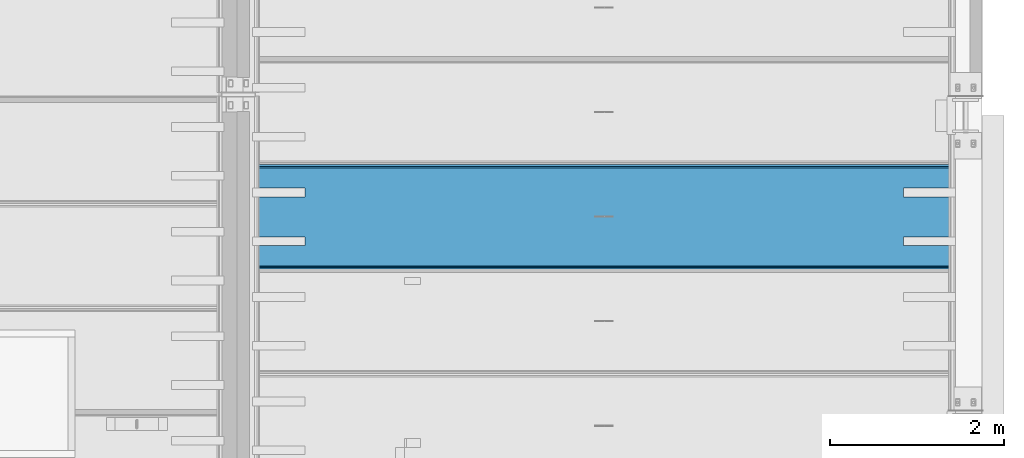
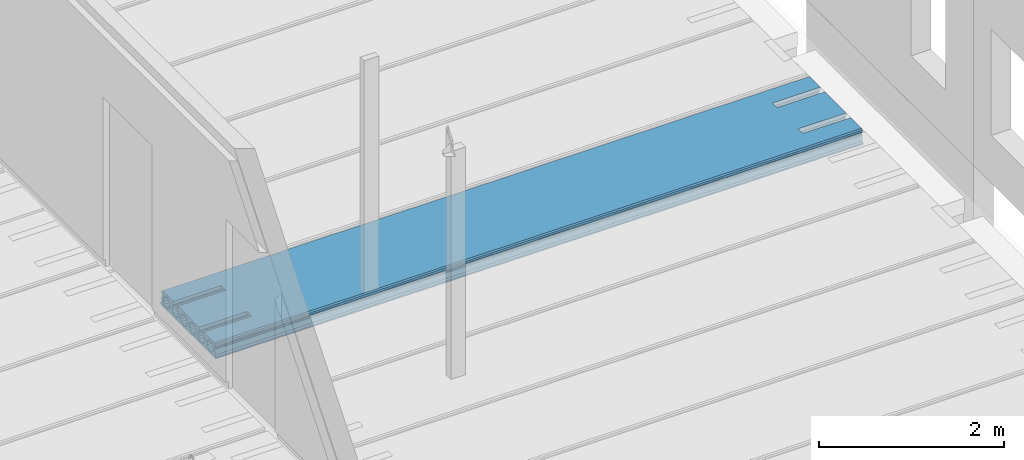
# One storey, part 115 of 230: 1 beam.
"""IFC4X3_ADD2 building model written with IfcOpenShell, lengths in millimetres."""

from ifc_helpers import new_model, si_unit, direction, origin_with_axes, place, context, subcontext, project, spatial, polygons, element, save


model = new_model("IFC4X3_ADD2")

# Units and contexts
model_context = context("Model", 3, precision=1e-05, world=origin_with_axes(), true_north=direction((0.0, 1.0)))
body_context = subcontext(model_context, "Body", "Model", "MODEL_VIEW")
ifc_project = project(units=[si_unit("LENGTHUNIT", "METRE", prefix="MILLI"), si_unit("AREAUNIT", "SQUARE_METRE"), si_unit("VOLUMEUNIT", "CUBIC_METRE"), si_unit("PLANEANGLEUNIT", "RADIAN"), si_unit("TIMEUNIT", "SECOND"), si_unit("MASSUNIT", "GRAM")], contexts=[model_context])

# Site, building, storey
site_placement = place(None, origin_with_axes())
site = spatial("IfcSite", under=ifc_project, at=site_placement, Name="Site", CompositionType="ELEMENT")
building_placement = place(site_placement, origin_with_axes())
building = spatial("IfcBuilding", under=site, at=building_placement, Name="IFC Building Story")
storey_placement = place(building_placement, origin_with_axes())
storey = spatial("IfcBuildingStorey", under=building, at=storey_placement, Name="ETAGE 00 (0)", Elevation=0.0)

# Beam
beam_placement = place(storey_placement, origin_with_axes())
element("IfcBeam", 1, at=beam_placement, inside=storey, Name="HOLLOWCORE SLAB", ObjectType="EB_SP200", context=body_context, shape_type="Tessellation", body=[
    polygons([(40131.189, 11749.0, 3999.9999909), (40131.189, 10571.0, 3999.9999909), (40131.189, 10560.0, 4012.9999909), (40131.189, 10560.0, 4029.9999909), (40131.189, 10580.0, 4044.9999909), (40131.189, 10581.45001220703, 4119.9999909), (40131.189, 10588.98262147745, 4128.676139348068), (40131.189, 10591.83993001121, 4139.805000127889), (40131.189, 10589.41863641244, 4151.036789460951), (40131.189, 10582.22998046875, 4159.9999909), (40131.189, 10582.71129616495, 4185.002769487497), (40131.189, 10598.0, 4199.9999909), (40131.189, 10830.0, 4199.9999909), (40131.189, 10830.0, 4155.806158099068), (40131.189, 10825.3205448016, 4152.679446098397), (40131.189, 10809.17097482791, 4128.509906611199), (40131.189, 10803.5, 4099.9999909), (40131.189, 10809.17097482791, 4071.490075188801), (40131.189, 10825.3205448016, 4047.320535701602), (40131.189, 10849.4900842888, 4031.170965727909), (40131.189, 10878.0, 4025.4999909), (40131.189, 10906.5099157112, 4031.170965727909), (40131.189, 10930.6794551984, 4047.320535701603), (40131.189, 10946.82902517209, 4071.490075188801), (40131.189, 10952.5, 4099.9999909), (40131.189, 10946.82902517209, 4128.509906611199), (40131.189, 10930.6794551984, 4152.679446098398), (40131.189, 10930.0, 4153.133443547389), (40131.189, 10930.0, 4199.9999909), (40131.189, 11390.0, 4199.9999909), (40131.189, 11390.0, 4153.133443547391), (40131.189, 11389.3205448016, 4152.679446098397), (40131.189, 11373.17097482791, 4128.509906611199), (40131.189, 11367.5, 4099.9999909), (40131.189, 11373.17097482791, 4071.490075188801), (40131.189, 11389.3205448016, 4047.320535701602), (40131.189, 11413.4900842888, 4031.170965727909), (40131.189, 11442.0, 4025.4999909), (40131.189, 11470.5099157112, 4031.170965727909), (40131.189, 11494.6794551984, 4047.320535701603), (40131.189, 11510.82902517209, 4071.490075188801), (40131.189, 11516.5, 4099.9999909), (40131.189, 11510.82902517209, 4128.509906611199), (40131.189, 11494.6794551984, 4152.679446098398), (40131.189, 11490.0, 4155.806158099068), (40131.189, 11490.0, 4199.9999909), (40131.189, 11722.0, 4199.9999909), (40131.189, 11737.28870383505, 4185.002769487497), (40131.189, 11737.77001953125, 4159.9999909), (40131.189, 11730.58136358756, 4151.036789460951), (40131.189, 11728.16006998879, 4139.805000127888), (40131.189, 11731.01737852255, 4128.676139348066), (40131.189, 11738.54998779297, 4119.9999909), (40131.189, 11740.0, 4044.9999909), (40131.189, 11760.0, 4029.9999909), (40131.189, 11760.0, 4012.9999909), (40131.189, 11682.6794551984, 4152.679446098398), (40131.189, 11658.5099157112, 4168.829016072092), (40131.189, 11630.0, 4174.4999909), (40131.189, 11601.4900842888, 4168.829016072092), (40131.189, 11577.3205448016, 4152.679446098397), (40131.189, 11561.17097482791, 4128.509906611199), (40131.189, 11555.5, 4099.9999909), (40131.189, 11561.17097482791, 4071.490075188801), (40131.189, 11577.3205448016, 4047.320535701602), (40131.189, 11601.4900842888, 4031.170965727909), (40131.189, 11630.0, 4025.4999909), (40131.189, 11658.5099157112, 4031.170965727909), (40131.189, 11682.6794551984, 4047.320535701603), (40131.189, 11698.82902517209, 4071.490075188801), (40131.189, 11704.5, 4099.9999909), (40131.189, 11698.82902517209, 4128.509906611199), (40131.189, 11306.6794551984, 4152.679446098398), (40131.189, 11282.5099157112, 4168.829016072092), (40131.189, 11254.0, 4174.4999909), (40131.189, 11225.4900842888, 4168.829016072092), (40131.189, 11201.3205448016, 4152.679446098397), (40131.189, 11185.17097482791, 4128.509906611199), (40131.189, 11179.5, 4099.9999909), (40131.189, 11185.17097482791, 4071.490075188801), (40131.189, 11201.3205448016, 4047.320535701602), (40131.189, 11225.4900842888, 4031.170965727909), (40131.189, 11254.0, 4025.4999909), (40131.189, 11282.5099157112, 4031.170965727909), (40131.189, 11306.6794551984, 4047.320535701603), (40131.189, 11322.82902517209, 4071.490075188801), (40131.189, 11328.5, 4099.9999909), (40131.189, 11322.82902517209, 4128.509906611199), (40131.189, 11118.6794551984, 4152.679446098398), (40131.189, 11094.5099157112, 4168.829016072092), (40131.189, 11066.0, 4174.4999909), (40131.189, 11037.4900842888, 4168.829016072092), (40131.189, 11013.3205448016, 4152.679446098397), (40131.189, 10997.17097482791, 4128.509906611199), (40131.189, 10991.5, 4099.9999909), (40131.189, 10997.17097482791, 4071.490075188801), (40131.189, 11013.3205448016, 4047.320535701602), (40131.189, 11037.4900842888, 4031.170965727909), (40131.189, 11066.0, 4025.4999909), (40131.189, 11094.5099157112, 4031.170965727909), (40131.189, 11118.6794551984, 4047.320535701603), (40131.189, 11134.82902517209, 4071.490075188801), (40131.189, 11140.5, 4099.9999909), (40131.189, 11134.82902517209, 4128.509906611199), (40131.189, 10742.6794551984, 4152.679446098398), (40131.189, 10718.5099157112, 4168.829016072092), (40131.189, 10690.0, 4174.4999909), (40131.189, 10661.4900842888, 4168.829016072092), (40131.189, 10637.3205448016, 4152.679446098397), (40131.189, 10621.17097482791, 4128.509906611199), (40131.189, 10615.5, 4099.9999909), (40131.189, 10621.17097482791, 4071.490075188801), (40131.189, 10637.3205448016, 4047.320535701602), (40131.189, 10661.4900842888, 4031.170965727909), (40131.189, 10690.0, 4025.4999909), (40131.189, 10718.5099157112, 4031.170965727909), (40131.189, 10742.6794551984, 4047.320535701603), (40131.189, 10758.82902517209, 4071.490075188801), (40131.189, 10764.5, 4099.9999909), (40131.189, 10758.82902517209, 4128.509906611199), (48196.189, 11749.0, 3999.9999909), (48196.189, 11760.0, 4012.9999909), (48196.189, 11760.0, 4029.9999909), (48196.189, 11740.0, 4044.9999909), (48196.189, 11738.54998779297, 4119.9999909), (48196.189, 11731.01737852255, 4128.676139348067), (48196.189, 11728.16006998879, 4139.805000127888), (48196.189, 11730.58136358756, 4151.036789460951), (48196.189, 11737.77001953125, 4159.9999909), (48196.189, 11737.28870383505, 4185.002769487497), (48196.189, 11722.0, 4199.9999909), (48196.189, 11490.0, 4199.9999909), (48196.189, 11490.0, 4155.806158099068), (48196.189, 11494.6794551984, 4152.679446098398), (48196.189, 11510.82902517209, 4128.509906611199), (48196.189, 11516.5, 4099.9999909), (48196.189, 11510.82902517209, 4071.490075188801), (48196.189, 11494.6794551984, 4047.320535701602), (48196.189, 11470.5099157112, 4031.170965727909), (48196.189, 11442.0, 4025.4999909), (48196.189, 11413.4900842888, 4031.170965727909), (48196.189, 11389.3205448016, 4047.320535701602), (48196.189, 11373.17097482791, 4071.490075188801), (48196.189, 11367.5, 4099.9999909), (48196.189, 11373.17097482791, 4128.509906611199), (48196.189, 11389.3205448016, 4152.679446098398), (48196.189, 11390.0, 4153.133443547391), (48196.189, 11390.0, 4199.9999909), (48196.189, 10930.0, 4199.9999909), (48196.189, 10930.0, 4153.133443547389), (48196.189, 10930.6794551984, 4152.679446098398), (48196.189, 10946.82902517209, 4128.509906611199), (48196.189, 10952.5, 4099.9999909), (48196.189, 10946.82902517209, 4071.490075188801), (48196.189, 10930.6794551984, 4047.320535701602), (48196.189, 10906.5099157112, 4031.170965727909), (48196.189, 10878.0, 4025.4999909), (48196.189, 10849.4900842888, 4031.170965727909), (48196.189, 10825.3205448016, 4047.320535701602), (48196.189, 10809.17097482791, 4071.490075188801), (48196.189, 10803.5, 4099.9999909), (48196.189, 10809.17097482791, 4128.509906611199), (48196.189, 10825.3205448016, 4152.679446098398), (48196.189, 10830.0, 4155.806158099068), (48196.189, 10830.0, 4199.9999909), (48196.189, 10598.0, 4199.9999909), (48196.189, 10582.71129616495, 4185.002769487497), (48196.189, 10582.22998046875, 4159.9999909), (48196.189, 10589.41863641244, 4151.036789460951), (48196.189, 10591.83993001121, 4139.805000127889), (48196.189, 10588.98262147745, 4128.676139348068), (48196.189, 10581.45001220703, 4119.9999909), (48196.189, 10580.0, 4044.9999909), (48196.189, 10560.0, 4029.9999909), (48196.189, 10560.0, 4012.9999909), (48196.189, 10571.0, 3999.9999909), (48196.189, 11682.6794551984, 4152.679446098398), (48196.189, 11698.82902517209, 4128.509906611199), (48196.189, 11704.5, 4099.9999909), (48196.189, 11698.82902517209, 4071.490075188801), (48196.189, 11682.6794551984, 4047.320535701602), (48196.189, 11658.5099157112, 4031.170965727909), (48196.189, 11630.0, 4025.4999909), (48196.189, 11601.4900842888, 4031.170965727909), (48196.189, 11577.3205448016, 4047.320535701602), (48196.189, 11561.17097482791, 4071.490075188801), (48196.189, 11555.5, 4099.9999909), (48196.189, 11561.17097482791, 4128.509906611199), (48196.189, 11577.3205448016, 4152.679446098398), (48196.189, 11601.4900842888, 4168.829016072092), (48196.189, 11630.0, 4174.4999909), (48196.189, 11658.5099157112, 4168.829016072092), (48196.189, 11306.6794551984, 4152.679446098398), (48196.189, 11322.82902517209, 4128.509906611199), (48196.189, 11328.5, 4099.9999909), (48196.189, 11322.82902517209, 4071.490075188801), (48196.189, 11306.6794551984, 4047.320535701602), (48196.189, 11282.5099157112, 4031.170965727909), (48196.189, 11254.0, 4025.4999909), (48196.189, 11225.4900842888, 4031.170965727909), (48196.189, 11201.3205448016, 4047.320535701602), (48196.189, 11185.17097482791, 4071.490075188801), (48196.189, 11179.5, 4099.9999909), (48196.189, 11185.17097482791, 4128.509906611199), (48196.189, 11201.3205448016, 4152.679446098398), (48196.189, 11225.4900842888, 4168.829016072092), (48196.189, 11254.0, 4174.4999909), (48196.189, 11282.5099157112, 4168.829016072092), (48196.189, 11118.6794551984, 4152.679446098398), (48196.189, 11134.82902517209, 4128.509906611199), (48196.189, 11140.5, 4099.9999909), (48196.189, 11134.82902517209, 4071.490075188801), (48196.189, 11118.6794551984, 4047.320535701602), (48196.189, 11094.5099157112, 4031.170965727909), (48196.189, 11066.0, 4025.4999909), (48196.189, 11037.4900842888, 4031.170965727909), (48196.189, 11013.3205448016, 4047.320535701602), (48196.189, 10997.17097482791, 4071.490075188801), (48196.189, 10991.5, 4099.9999909), (48196.189, 10997.17097482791, 4128.509906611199), (48196.189, 11013.3205448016, 4152.679446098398), (48196.189, 11037.4900842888, 4168.829016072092), (48196.189, 11066.0, 4174.4999909), (48196.189, 11094.5099157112, 4168.829016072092), (48196.189, 10742.6794551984, 4152.679446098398), (48196.189, 10758.82902517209, 4128.509906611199), (48196.189, 10764.5, 4099.9999909), (48196.189, 10758.82902517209, 4071.490075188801), (48196.189, 10742.6794551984, 4047.320535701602), (48196.189, 10718.5099157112, 4031.170965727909), (48196.189, 10690.0, 4025.4999909), (48196.189, 10661.4900842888, 4031.170965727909), (48196.189, 10637.3205448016, 4047.320535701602), (48196.189, 10621.17097482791, 4071.490075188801), (48196.189, 10615.5, 4099.9999909), (48196.189, 10621.17097482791, 4128.509906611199), (48196.189, 10637.3205448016, 4152.679446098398), (48196.189, 10661.4900842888, 4168.829016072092), (48196.189, 10690.0, 4174.4999909), (48196.189, 10718.5099157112, 4168.829016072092), (40731.189, 11490.0, 4199.9999909), (40731.189, 11390.0, 4199.9999909), (40731.189, 10930.0, 4199.9999909), (40731.189, 10830.0, 4199.9999909), (47596.18900000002, 10830.0, 4199.9999909), (47596.18900000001, 10930.0, 4199.9999909), (47596.18900000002, 11390.0, 4199.9999909), (47596.18900000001, 11490.0, 4199.9999909), (47596.18900000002, 11490.0, 4155.806158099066), (47596.18900000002, 11470.5099157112, 4168.829016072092), (40731.189, 11470.5099157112, 4168.829016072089), (40731.189, 11490.0, 4155.806158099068), (47596.18900000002, 11442.0, 4174.4999909), (40731.189, 11442.0, 4174.4999909), (47596.18900000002, 11413.4900842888, 4168.829016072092), (40731.189, 11413.4900842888, 4168.82901607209), (40731.189, 11390.0, 4153.133443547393), (47596.18900000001, 11390.0, 4153.133443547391), (47596.18900000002, 10930.0, 4153.133443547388), (47596.18900000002, 10906.5099157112, 4168.829016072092), (40731.189, 10906.5099157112, 4168.829016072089), (40731.189, 10930.0, 4153.133443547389), (47596.18900000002, 10878.0, 4174.4999909), (40731.189, 10878.0, 4174.499990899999), (47596.18900000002, 10849.4900842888, 4168.829016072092), (40731.189, 10849.4900842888, 4168.829016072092), (40731.189, 10830.0, 4155.806158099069), (47596.18900000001, 10830.0, 4155.806158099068), (40731.189, 11390.0, 4199.999996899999), (40731.189, 11490.0, 4199.999996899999), (47596.18900000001, 11490.0, 4199.999996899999), (47596.18900000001, 11390.0, 4199.999996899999), (47596.18900000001, 10930.0, 4199.999996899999), (47596.18900000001, 10830.0, 4199.999996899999), (40731.189, 10830.0, 4199.999996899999), (40731.189, 10930.0, 4199.999996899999)], [[[27, 28, 29]], [[92, 93, 26]], [[92, 26, 27]], [[92, 27, 29]], [[29, 91, 92]], [[91, 29, 30]], [[30, 90, 91]], [[30, 89, 90]], [[94, 95, 25]], [[94, 25, 26]], [[26, 93, 94]], [[96, 97, 24]], [[24, 25, 95]], [[24, 95, 96]], [[97, 23, 24]], [[76, 77, 104]], [[76, 104, 89]], [[89, 75, 76]], [[75, 89, 30]], [[30, 74, 75]], [[30, 73, 74]], [[78, 79, 103]], [[78, 103, 104]], [[104, 77, 78]], [[80, 81, 102]], [[102, 103, 79]], [[102, 79, 80]], [[81, 101, 102]], [[88, 73, 30]], [[88, 30, 31]], [[33, 34, 87]], [[33, 87, 88]], [[88, 32, 33]], [[88, 31, 32]], [[35, 36, 86]], [[86, 87, 34]], [[86, 34, 35]], [[36, 85, 86]], [[44, 45, 46]], [[60, 61, 43]], [[60, 43, 44]], [[60, 44, 46]], [[46, 59, 60]], [[46, 47, 59]], [[47, 58, 59]], [[47, 57, 58]], [[62, 63, 42]], [[62, 42, 43]], [[43, 61, 62]], [[64, 65, 41]], [[41, 42, 63]], [[41, 63, 64]], [[50, 51, 72]], [[50, 72, 57]], [[57, 47, 48]], [[57, 48, 49]], [[57, 49, 50]], [[52, 53, 71]], [[52, 71, 72]], [[72, 51, 52]], [[53, 54, 70]], [[53, 70, 71]], [[54, 55, 56]], [[54, 56, 1]], [[1, 69, 70]], [[1, 70, 54]], [[1, 68, 69]], [[1, 67, 68]], [[1, 66, 67]], [[1, 40, 66]], [[40, 41, 65]], [[40, 65, 66]], [[1, 39, 40]], [[1, 38, 39]], [[1, 84, 38]], [[84, 37, 38]], [[84, 85, 36]], [[84, 36, 37]], [[1, 83, 84]], [[1, 100, 83]], [[100, 82, 83]], [[100, 101, 81]], [[100, 81, 82]], [[1, 99, 100]], [[1, 22, 99]], [[22, 98, 99]], [[22, 23, 97]], [[22, 97, 98]], [[1, 21, 22]], [[1, 2, 21]], [[2, 20, 21]], [[2, 19, 20]], [[9, 10, 11]], [[9, 11, 12]], [[109, 110, 8]], [[109, 8, 9]], [[9, 12, 108]], [[9, 108, 109]], [[12, 107, 108]], [[107, 12, 13]], [[13, 106, 107]], [[13, 105, 106]], [[110, 7, 8]], [[112, 113, 5]], [[5, 6, 111]], [[5, 111, 112]], [[6, 7, 110]], [[6, 110, 111]], [[116, 117, 18]], [[116, 18, 19]], [[19, 115, 116]], [[19, 2, 115]], [[2, 114, 115]], [[2, 5, 113]], [[2, 113, 114]], [[2, 3, 4]], [[2, 4, 5]], [[118, 119, 17]], [[118, 17, 18]], [[18, 117, 118]], [[120, 105, 16]], [[16, 17, 119]], [[16, 119, 120]], [[105, 13, 15]], [[105, 15, 16]], [[13, 14, 15]], [[173, 174, 175]], [[173, 175, 176]], [[128, 129, 130]], [[128, 130, 131]], [[128, 131, 177]], [[177, 178, 127]], [[177, 127, 128]], [[178, 126, 127]], [[180, 181, 124]], [[124, 125, 179]], [[124, 179, 180]], [[125, 126, 178]], [[125, 178, 179]], [[192, 177, 131]], [[131, 191, 192]], [[191, 131, 132]], [[132, 190, 191]], [[132, 189, 190]], [[132, 133, 188]], [[132, 188, 189]], [[135, 136, 187]], [[135, 187, 188]], [[188, 134, 135]], [[188, 133, 134]], [[137, 138, 186]], [[186, 187, 136]], [[186, 136, 137]], [[138, 139, 185]], [[138, 185, 186]], [[139, 184, 185]], [[146, 147, 148]], [[148, 193, 145]], [[148, 145, 146]], [[194, 195, 144]], [[194, 144, 145]], [[145, 193, 194]], [[196, 197, 143]], [[143, 144, 195]], [[143, 195, 196]], [[197, 142, 143]], [[208, 193, 148]], [[148, 207, 208]], [[148, 209, 207]], [[209, 206, 207]], [[209, 205, 206]], [[209, 204, 205]], [[210, 211, 203]], [[210, 203, 204]], [[204, 209, 210]], [[212, 213, 202]], [[202, 203, 211]], [[202, 211, 212]], [[213, 201, 202]], [[224, 209, 148]], [[148, 223, 224]], [[148, 149, 223]], [[149, 222, 223]], [[149, 221, 222]], [[149, 150, 220]], [[149, 220, 221]], [[152, 153, 219]], [[152, 219, 220]], [[220, 151, 152]], [[220, 150, 151]], [[154, 155, 218]], [[218, 219, 153]], [[218, 153, 154]], [[155, 217, 218]], [[163, 164, 165]], [[165, 225, 162]], [[165, 162, 163]], [[226, 227, 161]], [[226, 161, 162]], [[162, 225, 226]], [[228, 229, 160]], [[160, 161, 227]], [[160, 227, 228]], [[235, 236, 171]], [[235, 171, 172]], [[172, 173, 234]], [[172, 234, 235]], [[173, 176, 233]], [[173, 233, 234]], [[176, 232, 233]], [[176, 231, 232]], [[176, 230, 231]], [[176, 159, 230]], [[159, 160, 229]], [[159, 229, 230]], [[176, 158, 159]], [[176, 157, 158]], [[176, 216, 157]], [[216, 156, 157]], [[216, 217, 155]], [[216, 155, 156]], [[176, 215, 216]], [[176, 200, 215]], [[200, 214, 215]], [[200, 201, 213]], [[200, 213, 214]], [[176, 199, 200]], [[176, 141, 199]], [[141, 198, 199]], [[141, 142, 197]], [[141, 197, 198]], [[176, 140, 141]], [[176, 183, 140]], [[183, 184, 139]], [[183, 139, 140]], [[176, 121, 183]], [[121, 182, 183]], [[121, 124, 181]], [[121, 181, 182]], [[121, 122, 123]], [[121, 123, 124]], [[236, 170, 171]], [[240, 225, 165]], [[165, 239, 240]], [[165, 166, 239]], [[166, 238, 239]], [[166, 169, 237]], [[166, 237, 238]], [[169, 170, 236]], [[169, 236, 237]], [[166, 167, 168]], [[166, 168, 169]], [[2, 1, 121, 176]], [[3, 2, 176, 175]], [[4, 3, 175, 174]], [[5, 4, 174, 173]], [[6, 5, 173, 172]], [[7, 6, 172, 171]], [[8, 7, 171, 170]], [[9, 8, 170, 169]], [[10, 9, 169, 168]], [[11, 10, 168, 167]], [[12, 11, 167, 166]], [[242, 30, 29]], [[242, 29, 243]], [[244, 13, 12]], [[244, 12, 166]], [[166, 243, 244]], [[242, 243, 166]], [[166, 241, 242]], [[246, 149, 148]], [[246, 148, 247]], [[248, 132, 131]], [[248, 131, 47]], [[47, 247, 248]], [[246, 247, 47]], [[47, 245, 246]], [[47, 241, 166]], [[47, 166, 245]], [[166, 165, 245]], [[47, 46, 241]], [[48, 47, 131, 130]], [[49, 48, 130, 129]], [[50, 49, 129, 128]], [[51, 50, 128, 127]], [[52, 51, 127, 126]], [[53, 52, 126, 125]], [[54, 53, 125, 124]], [[55, 54, 124, 123]], [[56, 55, 123, 122]], [[1, 56, 122, 121]], [[58, 57, 177, 192]], [[59, 58, 192, 191]], [[60, 59, 191, 190]], [[61, 60, 190, 189]], [[62, 61, 189, 188]], [[63, 62, 188, 187]], [[64, 63, 187, 186]], [[65, 64, 186, 185]], [[66, 65, 185, 184]], [[67, 66, 184, 183]], [[68, 67, 183, 182]], [[69, 68, 182, 181]], [[70, 69, 181, 180]], [[71, 70, 180, 179]], [[72, 71, 179, 178]], [[57, 72, 178, 177]], [[252, 45, 44]], [[252, 44, 249]], [[249, 250, 251]], [[249, 251, 252]], [[44, 134, 249]], [[134, 133, 249]], [[251, 250, 253, 254]], [[254, 253, 255, 256]], [[258, 147, 146]], [[258, 146, 257]], [[257, 256, 255]], [[257, 255, 258]], [[146, 32, 257]], [[32, 31, 257]], [[33, 32, 146, 145]], [[34, 33, 145, 144]], [[35, 34, 144, 143]], [[36, 35, 143, 142]], [[37, 36, 142, 141]], [[38, 37, 141, 140]], [[39, 38, 140, 139]], [[40, 39, 139, 138]], [[41, 40, 138, 137]], [[42, 41, 137, 136]], [[43, 42, 136, 135]], [[44, 43, 135, 134]], [[74, 73, 193, 208]], [[75, 74, 208, 207]], [[76, 75, 207, 206]], [[77, 76, 206, 205]], [[78, 77, 205, 204]], [[79, 78, 204, 203]], [[80, 79, 203, 202]], [[81, 80, 202, 201]], [[82, 81, 201, 200]], [[83, 82, 200, 199]], [[84, 83, 199, 198]], [[85, 84, 198, 197]], [[86, 85, 197, 196]], [[87, 86, 196, 195]], [[88, 87, 195, 194]], [[73, 88, 194, 193]], [[90, 89, 209, 224]], [[91, 90, 224, 223]], [[92, 91, 223, 222]], [[93, 92, 222, 221]], [[94, 93, 221, 220]], [[95, 94, 220, 219]], [[96, 95, 219, 218]], [[97, 96, 218, 217]], [[98, 97, 217, 216]], [[99, 98, 216, 215]], [[100, 99, 215, 214]], [[101, 100, 214, 213]], [[102, 101, 213, 212]], [[103, 102, 212, 211]], [[104, 103, 211, 210]], [[89, 104, 210, 209]], [[262, 28, 27]], [[262, 27, 259]], [[259, 260, 261]], [[259, 261, 262]], [[27, 151, 259]], [[151, 150, 259]], [[260, 263, 264, 261]], [[263, 265, 266, 264]], [[268, 164, 163]], [[268, 163, 267]], [[267, 266, 265]], [[267, 265, 268]], [[163, 15, 267]], [[15, 14, 267]], [[16, 15, 163, 162]], [[17, 16, 162, 161]], [[18, 17, 161, 160]], [[19, 18, 160, 159]], [[20, 19, 159, 158]], [[21, 20, 158, 157]], [[22, 21, 157, 156]], [[23, 22, 156, 155]], [[24, 23, 155, 154]], [[25, 24, 154, 153]], [[26, 25, 153, 152]], [[27, 26, 152, 151]], [[106, 105, 225, 240]], [[107, 106, 240, 239]], [[108, 107, 239, 238]], [[109, 108, 238, 237]], [[110, 109, 237, 236]], [[111, 110, 236, 235]], [[112, 111, 235, 234]], [[113, 112, 234, 233]], [[114, 113, 233, 232]], [[115, 114, 232, 231]], [[116, 115, 231, 230]], [[117, 116, 230, 229]], [[118, 117, 229, 228]], [[119, 118, 228, 227]], [[120, 119, 227, 226]], [[105, 120, 226, 225]], [[46, 45, 252, 241]], [[31, 30, 269, 257]], [[256, 257, 242]], [[242, 270, 254]], [[242, 254, 256]], [[270, 251, 254]], [[270, 252, 251]], [[148, 147, 258, 247]], [[133, 132, 271, 249]], [[250, 249, 248]], [[248, 253, 250]], [[248, 272, 255]], [[248, 255, 253]], [[272, 258, 255]], [[165, 164, 268, 245]], [[150, 149, 273, 259]], [[260, 259, 246]], [[246, 274, 263]], [[246, 263, 260]], [[274, 265, 263]], [[274, 268, 265]], [[262, 243, 29, 28]], [[275, 267, 14, 13]], [[266, 267, 244]], [[244, 264, 266]], [[244, 276, 261]], [[244, 261, 264]], [[276, 262, 261]]]),
])

save(model, "model.ifc")
